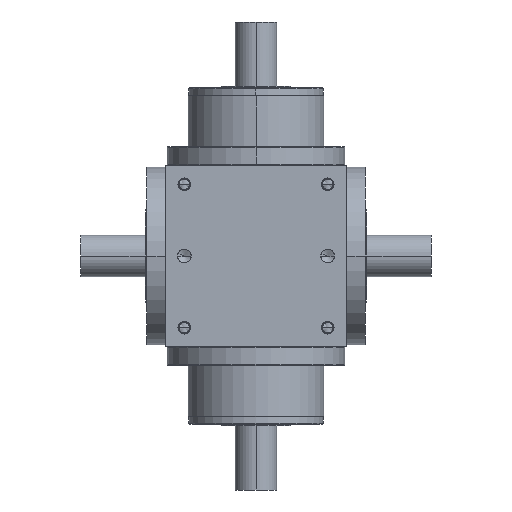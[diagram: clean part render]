
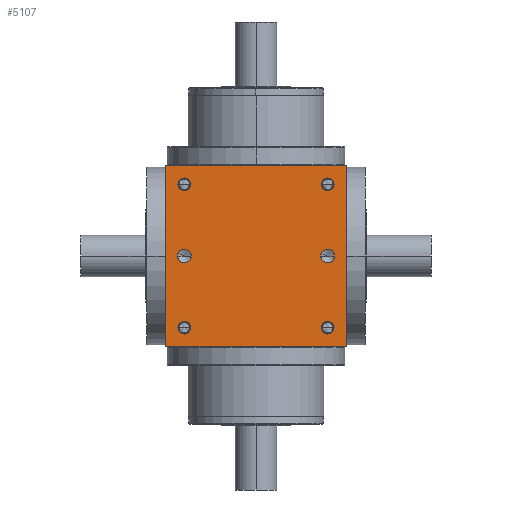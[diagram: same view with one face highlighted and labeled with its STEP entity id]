
A CAD part, front view. The second image highlights one B-rep face of the part: STEP entity #5107.
In plain terms, the highlighted planar face has unit normal (0, -1, 0).
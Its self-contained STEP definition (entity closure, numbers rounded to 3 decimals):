
#5=DIRECTION('',(1.,0.,0.));
#6=VECTOR('',#5,240.);
#7=CARTESIAN_POINT('',(-120.,-120.,-120.));
#8=LINE('',#7,#6);
#165=DIRECTION('',(0.,0.,1.));
#166=VECTOR('',#165,240.);
#167=CARTESIAN_POINT('',(120.,-120.,-120.));
#168=LINE('',#167,#166);
#219=DIRECTION('',(0.,0.,1.));
#220=VECTOR('',#219,240.);
#221=CARTESIAN_POINT('',(-120.,-120.,-120.));
#222=LINE('',#221,#220);
#223=CARTESIAN_POINT('',(95.,-120.,95.));
#224=DIRECTION('',(0.,1.,0.));
#225=DIRECTION('',(-1.,0.,0.));
#226=AXIS2_PLACEMENT_3D('',#223,#224,#225);
#228=CARTESIAN_POINT('',(95.,-120.,95.));
#229=DIRECTION('',(0.,1.,0.));
#230=DIRECTION('',(1.,0.,0.));
#231=AXIS2_PLACEMENT_3D('',#228,#229,#230);
#233=CARTESIAN_POINT('',(-95.,-120.,95.));
#234=DIRECTION('',(0.,1.,0.));
#235=DIRECTION('',(-1.,0.,0.));
#236=AXIS2_PLACEMENT_3D('',#233,#234,#235);
#238=CARTESIAN_POINT('',(-95.,-120.,95.));
#239=DIRECTION('',(0.,1.,0.));
#240=DIRECTION('',(1.,0.,0.));
#241=AXIS2_PLACEMENT_3D('',#238,#239,#240);
#243=CARTESIAN_POINT('',(95.,-120.,-95.));
#244=DIRECTION('',(0.,1.,0.));
#245=DIRECTION('',(-1.,0.,0.));
#246=AXIS2_PLACEMENT_3D('',#243,#244,#245);
#248=CARTESIAN_POINT('',(95.,-120.,-95.));
#249=DIRECTION('',(0.,1.,0.));
#250=DIRECTION('',(1.,0.,0.));
#251=AXIS2_PLACEMENT_3D('',#248,#249,#250);
#253=CARTESIAN_POINT('',(-95.,-120.,-95.));
#254=DIRECTION('',(0.,1.,0.));
#255=DIRECTION('',(-1.,0.,0.));
#256=AXIS2_PLACEMENT_3D('',#253,#254,#255);
#258=CARTESIAN_POINT('',(-95.,-120.,-95.));
#259=DIRECTION('',(0.,1.,0.));
#260=DIRECTION('',(1.,0.,0.));
#261=AXIS2_PLACEMENT_3D('',#258,#259,#260);
#263=CARTESIAN_POINT('',(-95.,-120.,0.));
#264=DIRECTION('',(0.,1.,0.));
#265=DIRECTION('',(1.,0.,0.));
#266=AXIS2_PLACEMENT_3D('',#263,#264,#265);
#268=CARTESIAN_POINT('',(-95.,-120.,0.));
#269=DIRECTION('',(0.,1.,0.));
#270=DIRECTION('',(-1.,0.,0.));
#271=AXIS2_PLACEMENT_3D('',#268,#269,#270);
#273=CARTESIAN_POINT('',(95.,-120.,0.));
#274=DIRECTION('',(0.,1.,0.));
#275=DIRECTION('',(1.,0.,0.));
#276=AXIS2_PLACEMENT_3D('',#273,#274,#275);
#278=CARTESIAN_POINT('',(95.,-120.,0.));
#279=DIRECTION('',(0.,1.,0.));
#280=DIRECTION('',(-1.,0.,0.));
#281=AXIS2_PLACEMENT_3D('',#278,#279,#280);
#295=DIRECTION('',(1.,0.,0.));
#296=VECTOR('',#295,240.);
#297=CARTESIAN_POINT('',(-120.,-120.,120.));
#298=LINE('',#297,#296);
#4081=CARTESIAN_POINT('',(-120.,-120.,-120.));
#4083=VERTEX_POINT('',#4081);
#4084=CARTESIAN_POINT('',(120.,-120.,-120.));
#4085=VERTEX_POINT('',#4084);
#4089=CARTESIAN_POINT('',(-120.,-120.,120.));
#4091=VERTEX_POINT('',#4089);
#4092=CARTESIAN_POINT('',(120.,-120.,120.));
#4093=VERTEX_POINT('',#4092);
#4272=CARTESIAN_POINT('',(86.6,-120.,95.));
#4273=CARTESIAN_POINT('',(103.4,-120.,95.));
#4274=VERTEX_POINT('',#4272);
#4275=VERTEX_POINT('',#4273);
#4280=CARTESIAN_POINT('',(-103.4,-120.,95.));
#4281=CARTESIAN_POINT('',(-86.6,-120.,95.));
#4282=VERTEX_POINT('',#4280);
#4283=VERTEX_POINT('',#4281);
#4288=CARTESIAN_POINT('',(86.6,-120.,-95.));
#4289=CARTESIAN_POINT('',(103.4,-120.,-95.));
#4290=VERTEX_POINT('',#4288);
#4291=VERTEX_POINT('',#4289);
#4296=CARTESIAN_POINT('',(-103.4,-120.,-95.));
#4297=CARTESIAN_POINT('',(-86.6,-120.,-95.));
#4298=VERTEX_POINT('',#4296);
#4299=VERTEX_POINT('',#4297);
#4656=CARTESIAN_POINT('',(-85.95,-120.,
0.));
#4657=CARTESIAN_POINT('',(-104.05,-120.,0.));
#4658=VERTEX_POINT('',#4656);
#4659=VERTEX_POINT('',#4657);
#4664=CARTESIAN_POINT('',(104.05,-120.,0.));
#4665=CARTESIAN_POINT('',(85.95,-120.,0.));
#4666=VERTEX_POINT('',#4664);
#4667=VERTEX_POINT('',#4665);
#5059=CARTESIAN_POINT('',(-120.,-120.,-120.));
#5060=DIRECTION('',(0.,-1.,0.));
#5061=DIRECTION('',(1.,0.,0.));
#5062=AXIS2_PLACEMENT_3D('',#5059,#5060,#5061);
#5063=PLANE('',#5062);
#5064=ORIENTED_EDGE('',*,*,#4893,.F.);
#5065=ORIENTED_EDGE('',*,*,#4942,.T.);
#5067=ORIENTED_EDGE('',*,*,#5066,.T.);
#5068=ORIENTED_EDGE('',*,*,#5021,.F.);
#5069=EDGE_LOOP('',(#5064,#5065,#5067,#5068));
#5070=FACE_OUTER_BOUND('',#5069,.F.);
#5072=ORIENTED_EDGE('',*,*,#5071,.F.);
#5074=ORIENTED_EDGE('',*,*,#5073,.F.);
#5075=EDGE_LOOP('',(#5072,#5074));
#5076=FACE_BOUND('',#5075,.F.);
#5078=ORIENTED_EDGE('',*,*,#5077,.F.);
#5080=ORIENTED_EDGE('',*,*,#5079,.F.);
#5081=EDGE_LOOP('',(#5078,#5080));
#5082=FACE_BOUND('',#5081,.F.);
#5084=ORIENTED_EDGE('',*,*,#5083,.F.);
#5086=ORIENTED_EDGE('',*,*,#5085,.F.);
#5087=EDGE_LOOP('',(#5084,#5086));
#5088=FACE_BOUND('',#5087,.F.);
#5090=ORIENTED_EDGE('',*,*,#5089,.F.);
#5092=ORIENTED_EDGE('',*,*,#5091,.F.);
#5093=EDGE_LOOP('',(#5090,#5092));
#5094=FACE_BOUND('',#5093,.F.);
#5096=ORIENTED_EDGE('',*,*,#5095,.F.);
#5098=ORIENTED_EDGE('',*,*,#5097,.F.);
#5099=EDGE_LOOP('',(#5096,#5098));
#5100=FACE_BOUND('',#5099,.F.);
#5102=ORIENTED_EDGE('',*,*,#5101,.F.);
#5104=ORIENTED_EDGE('',*,*,#5103,.F.);
#5105=EDGE_LOOP('',(#5102,#5104));
#5106=FACE_BOUND('',#5105,.F.);
#5107=ADVANCED_FACE('',(#5070,#5076,#5082,#5088,#5094,#5100,#5106),#5063,.T.);
#227=CIRCLE('',#226,8.4);
#232=CIRCLE('',#231,8.4);
#237=CIRCLE('',#236,8.4);
#242=CIRCLE('',#241,8.4);
#247=CIRCLE('',#246,8.4);
#252=CIRCLE('',#251,8.4);
#257=CIRCLE('',#256,8.4);
#262=CIRCLE('',#261,8.4);
#267=CIRCLE('',#266,9.05);
#272=CIRCLE('',#271,9.05);
#277=CIRCLE('',#276,9.05);
#282=CIRCLE('',#281,9.05);
#4893=EDGE_CURVE('',#4083,#4085,#8,.T.);
#4942=EDGE_CURVE('',#4083,#4091,#222,.T.);
#5021=EDGE_CURVE('',#4085,#4093,#168,.T.);
#5066=EDGE_CURVE('',#4091,#4093,#298,.T.);
#5071=EDGE_CURVE('',#4274,#4275,#227,.T.);
#5073=EDGE_CURVE('',#4275,#4274,#232,.T.);
#5077=EDGE_CURVE('',#4282,#4283,#237,.T.);
#5079=EDGE_CURVE('',#4283,#4282,#242,.T.);
#5083=EDGE_CURVE('',#4290,#4291,#247,.T.);
#5085=EDGE_CURVE('',#4291,#4290,#252,.T.);
#5089=EDGE_CURVE('',#4298,#4299,#257,.T.);
#5091=EDGE_CURVE('',#4299,#4298,#262,.T.);
#5095=EDGE_CURVE('',#4658,#4659,#267,.T.);
#5097=EDGE_CURVE('',#4659,#4658,#272,.T.);
#5101=EDGE_CURVE('',#4666,#4667,#277,.T.);
#5103=EDGE_CURVE('',#4667,#4666,#282,.T.);
